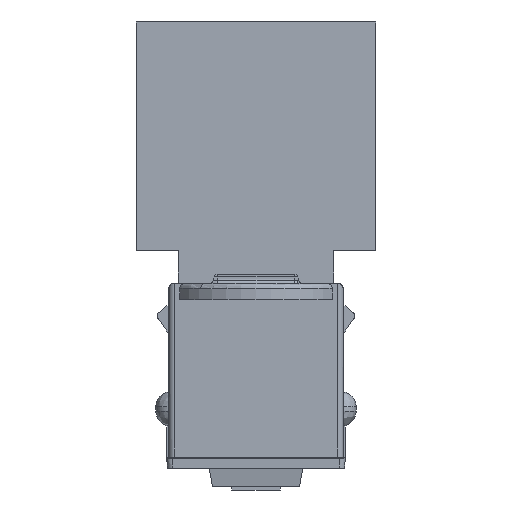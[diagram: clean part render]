
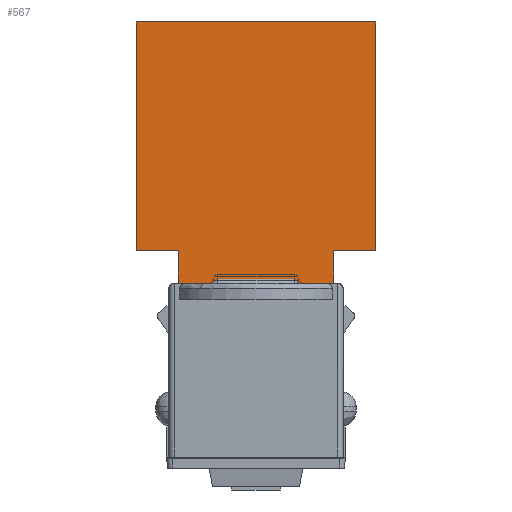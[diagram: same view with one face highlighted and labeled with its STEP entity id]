
A CAD part, front view. The second image highlights one B-rep face of the part: STEP entity #567.
In plain terms, the highlighted planar face has unit normal (0, -1, 0) as drawn and (0, 0, 1) by its records, which use the part's own axes.
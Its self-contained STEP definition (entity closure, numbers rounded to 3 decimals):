
#87=DIRECTION('',(1.,0.,0.));
#88=VECTOR('',#87,22.);
#89=CARTESIAN_POINT('',(-11.,-10.5,109.5));
#90=LINE('',#89,#88);
#103=DIRECTION('',(0.,1.,0.));
#104=VECTOR('',#103,21.);
#105=CARTESIAN_POINT('',(11.,-10.5,109.5));
#106=LINE('',#105,#104);
#111=DIRECTION('',(1.,0.,0.));
#112=VECTOR('',#111,3.868);
#113=CARTESIAN_POINT('',(-11.,10.5,109.5));
#114=LINE('',#113,#112);
#115=DIRECTION('',(0.,-1.,0.));
#116=VECTOR('',#115,3.);
#117=CARTESIAN_POINT('',(-7.132,13.5,109.5));
#118=LINE('',#117,#116);
#119=DIRECTION('',(0.,-1.,0.));
#120=VECTOR('',#119,3.);
#121=CARTESIAN_POINT('',(7.132,13.5,109.5));
#122=LINE('',#121,#120);
#123=DIRECTION('',(-1.,0.,0.));
#124=VECTOR('',#123,3.868);
#125=CARTESIAN_POINT('',(11.,10.5,109.5));
#126=LINE('',#125,#124);
#151=DIRECTION('',(-1.,0.,0.));
#152=VECTOR('',#151,14.263);
#153=CARTESIAN_POINT('',(7.132,13.5,109.5));
#154=LINE('',#153,#152);
#315=DIRECTION('',(0.,-1.,0.));
#316=VECTOR('',#315,21.);
#317=CARTESIAN_POINT('',(-11.,10.5,109.5));
#318=LINE('',#317,#316);
#319=CARTESIAN_POINT('',(-11.,-10.5,109.5));
#320=CARTESIAN_POINT('',(11.,-10.5,109.5));
#321=VERTEX_POINT('',#319);
#322=VERTEX_POINT('',#320);
#327=CARTESIAN_POINT('',(-11.,10.5,109.5));
#328=CARTESIAN_POINT('',(-7.132,10.5,109.5));
#329=VERTEX_POINT('',#327);
#330=VERTEX_POINT('',#328);
#331=CARTESIAN_POINT('',(-7.132,13.5,109.5));
#332=VERTEX_POINT('',#331);
#333=CARTESIAN_POINT('',(7.132,13.5,109.5));
#334=CARTESIAN_POINT('',(7.132,10.5,109.5));
#335=VERTEX_POINT('',#333);
#336=VERTEX_POINT('',#334);
#337=CARTESIAN_POINT('',(11.,10.5,109.5));
#338=VERTEX_POINT('',#337);
#546=CARTESIAN_POINT('',(0.,0.,109.5));
#547=DIRECTION('',(0.,0.,1.));
#548=DIRECTION('',(1.,0.,0.));
#549=AXIS2_PLACEMENT_3D('',#546,#547,#548);
#550=PLANE('',#549);
#552=ORIENTED_EDGE('',*,*,#551,.T.);
#554=ORIENTED_EDGE('',*,*,#553,.F.);
#556=ORIENTED_EDGE('',*,*,#555,.F.);
#558=ORIENTED_EDGE('',*,*,#557,.T.);
#560=ORIENTED_EDGE('',*,*,#559,.F.);
#561=ORIENTED_EDGE('',*,*,#539,.F.);
#562=ORIENTED_EDGE('',*,*,#494,.F.);
#564=ORIENTED_EDGE('',*,*,#563,.F.);
#565=EDGE_LOOP('',(#552,#554,#556,#558,#560,#561,#562,#564));
#566=FACE_OUTER_BOUND('',#565,.F.);
#494=EDGE_CURVE('',#321,#322,#90,.T.);
#539=EDGE_CURVE('',#322,#338,#106,.T.);
#551=EDGE_CURVE('',#329,#330,#114,.T.);
#553=EDGE_CURVE('',#332,#330,#118,.T.);
#555=EDGE_CURVE('',#335,#332,#154,.T.);
#557=EDGE_CURVE('',#335,#336,#122,.T.);
#559=EDGE_CURVE('',#338,#336,#126,.T.);
#563=EDGE_CURVE('',#329,#321,#318,.T.);
#567=ADVANCED_FACE('',(#566),#550,.T.);
